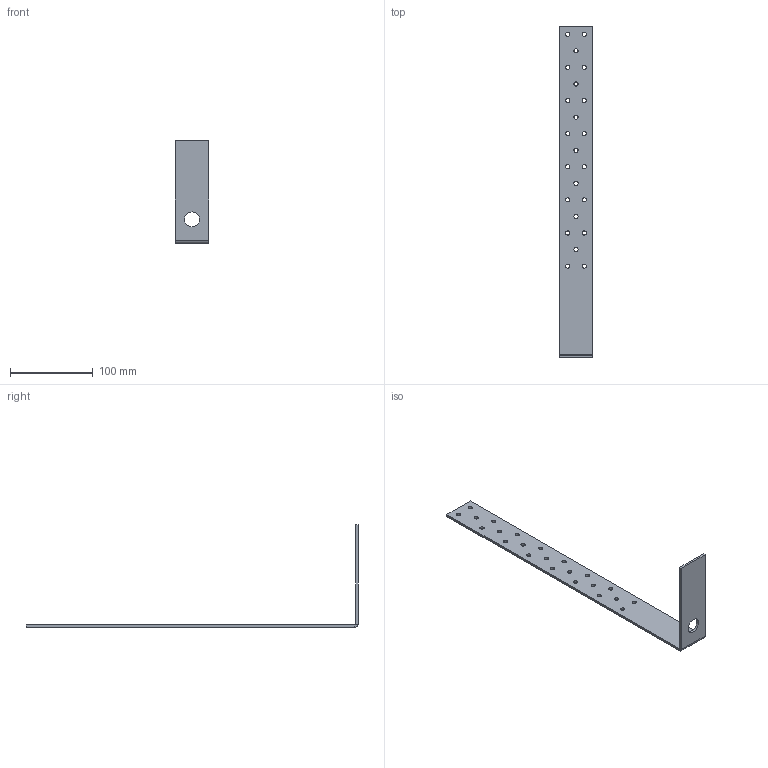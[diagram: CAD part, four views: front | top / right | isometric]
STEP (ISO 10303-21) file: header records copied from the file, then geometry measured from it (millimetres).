
FILE_DESCRIPTION (( 'STEP AP203' ), '1' );
FILE_NAME ('110410.STEP', '2020-01-20T13:10:29', ( '' ), ( '' ), 'SwSTEP 2.0', 'SolidWorks 2013', '' );
FILE_SCHEMA (( 'CONFIG_CONTROL_DESIGN' ));
Length unit declared in the file: millimetre
Products named in the file (1): 110410
Bounding box: 40 x 400.92 x 123.92 mm (x, y, z)
Volume: 60388 mm3; surface area: 44877.5 mm2
Topology: 1 solids, 1 shells, 62 faces, 172 edges, 112 vertices
Faces by surface type: cylinder 50, plane 12
Entity records: 2205 total; most frequent: DIRECTION 398, CARTESIAN_POINT 347, ORIENTED_EDGE 344, EDGE_CURVE 172, AXIS2_PLACEMENT_3D 163, VERTEX_POINT 112, EDGE_LOOP 110, CIRCLE 100
